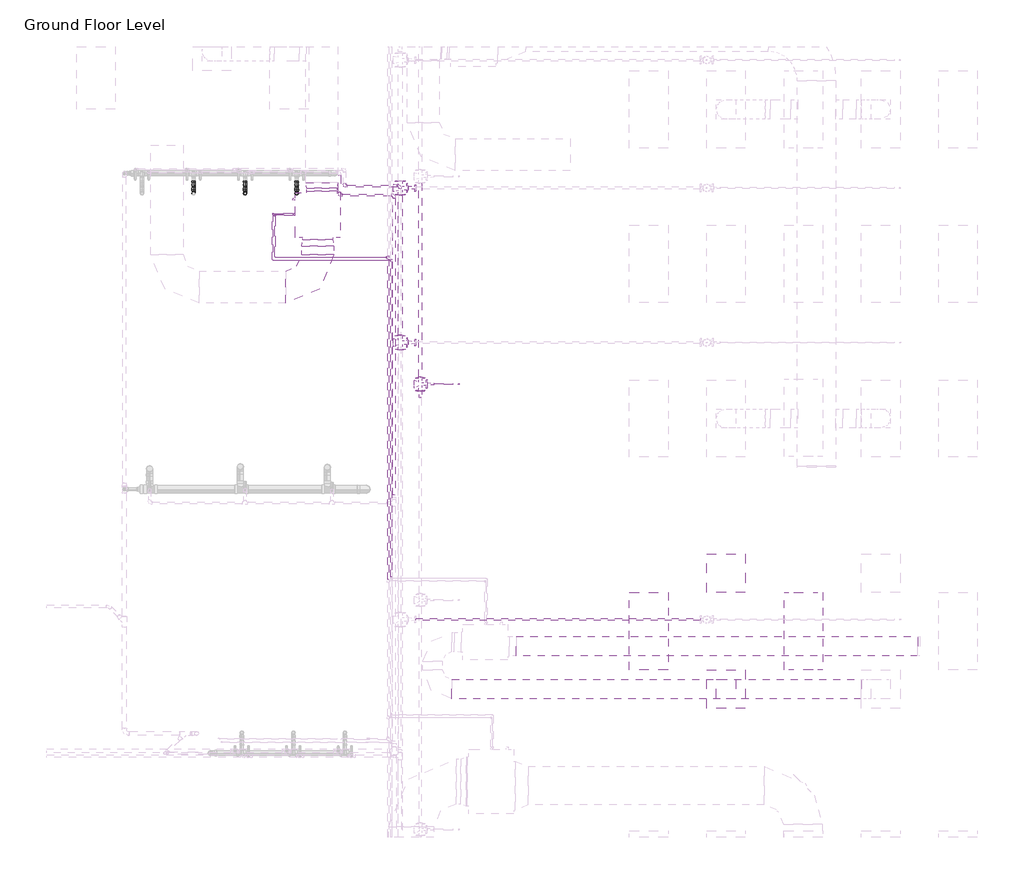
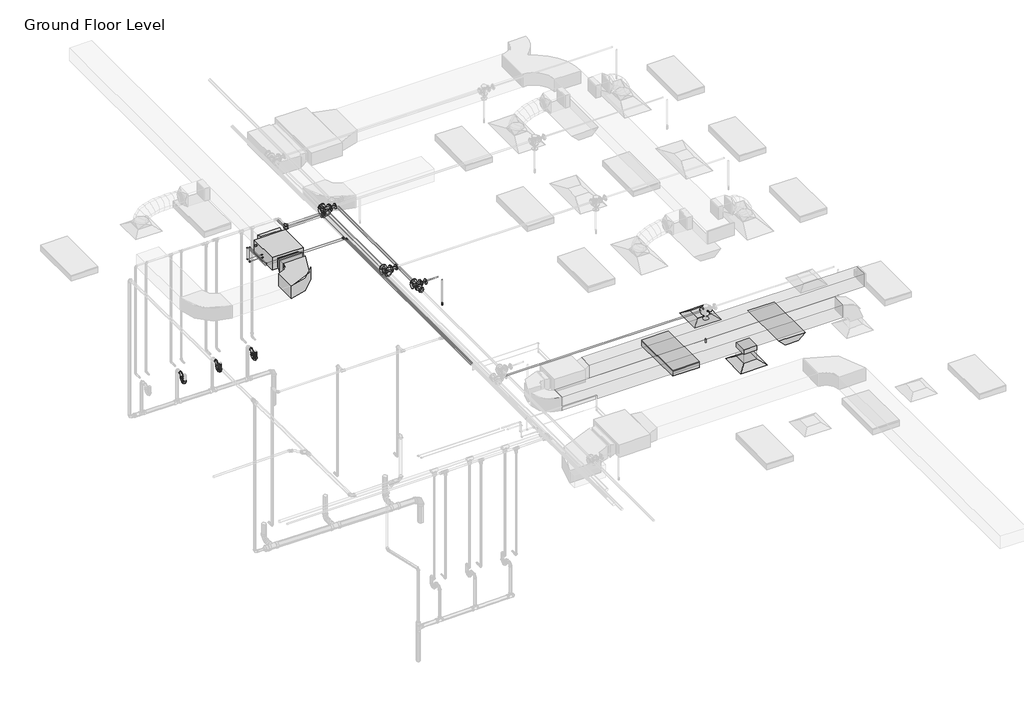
# One storey, part 22 of 75: 28 pipe fittings, 26 pipe segments, 5 duct segments, 4 duct fittings, 2 air terminals, 2 fire suppression terminals, 2 light fixtures, 1 proxy.
"""IFC4 building model written with IfcOpenShell, lengths in millimetres."""

from ifc_helpers import new_model, si_unit, point, frame, frame_2d, origin, place, context, project, spatial, polyline, circle_curve, trimmed, segment, composite_curve, outline, extrude, transform, mapped, element, save
from components import m_return_diffuser_600_x_600_face_300_x_300_connection_ff221211, fcu_daikin_iu_bad131e0, m_rectangular_elbow_radius_1_w_abe20169, m_rectangular_takeoff_standard_2be5eba1, m_rectangular_transition_angle_45_degree_f7c2916c, m_rectangular_transition_angle_45_degree_c3bd3b2c, m_sprinkler_dry_pendent_hosted_15_mm_dry_pendent_9bda8e11, m_sprinkler_pendent_15_mm_pendent_06fcbd8e, m_emergency_recessed_lighting_fixture_600x1200_277_5b10b25d, m_troffer_light_parabolic_rectangular1_0600x1200mm_4_lamp_86473d4a, m_bend_pvc_sch_40_dwv_standard_1e7bdcc1, m_bend_pvc_sch_40_dwv_standard_776e50c4, m_elbow_generic_standard_a088f956, m_elbow_generic_standard_2a704253, m_reducer_flanged_cs_class_150_standard_b6b67c23, m_reducer_flanged_cs_class_150_standard_cc2a7c1d, m_reducer_flanged_cs_class_150_standard_a7631c35, m_tee_generic_standard_5b2ed4d4, m_tee_generic_standard_5078887e, m_tee_round_base_flanged_cs_class_150_standard_dd767e04, m_tee_round_base_flanged_cs_class_150_standard_9c9133d0, m_transition_generic_standard_bdcfe2c1, m_transition_generic_standard_44e35838, standard_517a5a8d

model = new_model("IFC4")

# Units and contexts
model_context = context("Model", 3, world=origin())
ifc_project = project(units=[si_unit("LENGTHUNIT", "METRE", prefix="MILLI")], contexts=[model_context])

# Site, building, storey
site = spatial("IfcSite", under=ifc_project)
building = spatial("IfcBuilding", under=site)
storey = spatial("IfcBuildingStorey", under=building, Name="Ground Floor Level", Elevation=900.0)

# Air terminals
placement = place(None, origin())
m_return_diffuser_600_x_600_face_300_x_300_connection_shape = m_return_diffuser_600_x_600_face_300_x_300_connection_ff221211(model_context)
element("IfcAirTerminal", 1, ObjectType="M_Return Diffuser : 600 x 600 Face 300 x 300 Connection", at=placement, inside=storey, context=model_context, shape_type="MappedRepresentation", body=[
    mapped(m_return_diffuser_600_x_600_face_300_x_300_connection_shape, transform((10743.0482736, -31864.7846466, 3650.0), x_axis=(1.0, 0.0, 0.0), y_axis=(0.0, 1.0, 0.0), z_axis=(0.0, 0.0, 1.0))),
])
element("IfcAirTerminal", 2, ObjectType="M_Supply Diffuser : 600 x 600 Face 300 x 300 Connection", at=placement, inside=storey, context=model_context, shape_type="MappedRepresentation", body=[
    mapped(m_return_diffuser_600_x_600_face_300_x_300_connection_shape, transform((10743.0482736, -30064.7846466, 3650.0), x_axis=(1.0, 0.0, 0.0), y_axis=(0.0, 1.0, 0.0), z_axis=(0.0, 0.0, 1.0))),
])

# Proxy
fcu_daikin_iu_shape = fcu_daikin_iu_bad131e0(model_context)
element("IfcBuildingElementProxy", 3, Name="FCU-DAIKIN IU : 4.5kW, 230V/50Hz/1Ph", ObjectType="FCU-DAIKIN IU : 4.5kW, 230V/50Hz/1Ph", at=placement, inside=storey, context=model_context, shape_type="MappedRepresentation", body=[
    mapped(fcu_daikin_iu_shape, transform((4405.6581832, -24507.2627051, 3934.1054453), x_axis=(-1.0, 0.0, 0.0), y_axis=(0.0, -1.0, 0.0), z_axis=(0.0, 0.0, 1.0))),
])

# Duct fittings
m_rectangular_elbow_radius_1_w_shape = m_rectangular_elbow_radius_1_w_abe20169(model_context)
element("IfcDuctFitting", 4, ObjectType="M_Rectangular Elbow - Radius : 1 W", at=placement, inside=storey, context=model_context, shape_type="MappedRepresentation", body=[
    mapped(m_rectangular_elbow_radius_1_w_shape, transform((4405.6581832, -25622.6440715, 4075.3054453), x_axis=(1.0, 0.0, 0.0), y_axis=(0.0, 1.0, 0.0), z_axis=(0.0, 0.0, 1.0))),
])
m_rectangular_takeoff_standard_shape = m_rectangular_takeoff_standard_2be5eba1(model_context)
element("IfcDuctFitting", 5, ObjectType="M_Rectangular Takeoff : Standard", at=placement, inside=storey, context=model_context, shape_type="MappedRepresentation", body=[
    mapped(m_rectangular_takeoff_standard_shape, transform((10743.0482736, -31864.7846466, 4071.2), x_axis=(0.0, 0.0, -1.0), y_axis=(-1.0, 0.0, 0.0), z_axis=(0.0, 1.0, 0.0))),
])
m_rectangular_transition_angle_45_degree_shape = m_rectangular_transition_angle_45_degree_f7c2916c(model_context)
element("IfcDuctFitting", 6, ObjectType="M_Rectangular Transition - Angle : 45 Degree", at=placement, inside=storey, context=model_context, shape_type="MappedRepresentation", body=[
    mapped(m_rectangular_transition_angle_45_degree_shape, transform((4405.6581832, -24882.6627051, 4075.3054453), x_axis=(0.0, -1.0, 0.0), y_axis=(1.0, 0.0, 0.0), z_axis=(0.0, 0.0, 1.0))),
])
m_rectangular_transition_angle_45_degree_2_shape = m_rectangular_transition_angle_45_degree_c3bd3b2c(model_context)
element("IfcDuctFitting", 7, ObjectType="M_Rectangular Transition - Angle : 45 Degree", at=placement, inside=storey, context=model_context, shape_type="MappedRepresentation", body=[
    mapped(m_rectangular_transition_angle_45_degree_2_shape, transform((4469.1581832, -24003.4668801, 4057.1548873), x_axis=(0.0, -0.9999999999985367, 1.7107374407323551e-06), y_axis=(1.0, 0.0, 0.0), z_axis=(0.0, 1.7107374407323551e-06, 0.9999999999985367))),
])

# Duct segments
element("IfcDuctSegment", 8, ObjectType="Radius Elbows / Taps", at=placement, inside=storey, context=model_context, shape_type="SweptSolid", body=[
    extrude(outline(polyline([(4155.6581832, -24986.1117562), (4655.6581832, -24986.1117562), (4655.6581832, -25122.6440715), (4155.6581832, -25122.6440715), (4155.6581832, -24986.1117562)])), frame((0.0, 0.0, 3925.3054453), z_axis=(0.0, 0.0, 1.0), x_axis=(1.0, 0.0, 0.0)), (0.0, 0.0, 1.0), 300.0),
])
element("IfcDuctSegment", 9, ObjectType="Radius Elbows / Taps", at=placement, inside=storey, context=model_context, shape_type="SweptSolid", body=[
    extrude(outline(polyline([(0.0, -300.0), (0.0, 0.0), (6236.5207712, 0.0), (6236.5207712, -300.0), (0.0, -300.0)])), frame((7482.7433356, -31050.1877703, 4095.9125), z_axis=(2.004322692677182e-06, 0.0, 0.9999999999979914), x_axis=(0.9999999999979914, 0.0, -2.004322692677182e-06)), (0.0, 0.0, 1.0), 300.0),
])
element("IfcDuctSegment", 10, ObjectType="Radius Elbows / Taps", at=placement, inside=storey, context=model_context, shape_type="SweptSolid", body=[
    extrude(outline(polyline([(6488.4644074, -32014.7846466), (6488.4644074, -31714.7846466), (12843.0482736, -31714.7846466), (12843.0482736, -32014.7846466), (6488.4644074, -32014.7846466)])), frame((0.0, 0.0, 4071.2), z_axis=(0.0, 0.0, 1.0), x_axis=(1.0, 0.0, 0.0)), (0.0, 0.0, 1.0), 300.0),
])
element("IfcDuctSegment", 11, ObjectType="Radius Elbows / Taps", at=placement, inside=storey, context=model_context, shape_type="SweptSolid", body=[
    extrude(outline(polyline([(10893.0482736, -32014.7846466), (10593.0482736, -32014.7846466), (10593.0482736, -31714.7846466), (10893.0482736, -31714.7846466), (10893.0482736, -32014.7846466)])), frame((0.0, 0.0, 3751.6), z_axis=(0.0, 0.0, 1.0), x_axis=(1.0, 0.0, 0.0)), (0.0, 0.0, 1.0), 218.0),
])
element("IfcDuctSegment", 12, ObjectType="Radius Elbows / Taps", at=placement, inside=storey, context=model_context, shape_type="SweptSolid", body=[
    extrude(outline(polyline([(4700.0956832, -24131.8627051), (4238.2206832, -24131.8627051), (4238.2206832, -24089.1912487), (4700.0956832, -24089.1912487), (4700.0956832, -24131.8627051)])), frame((0.0, 0.0, 3992.8804453), z_axis=(0.0, 0.0, 1.0), x_axis=(1.0, 0.0, 0.0)), (0.0, 0.0, 1.0), 214.275),
])

# Fire suppression terminals
m_sprinkler_dry_pendent_hosted_15_mm_dry_pendent_shape = m_sprinkler_dry_pendent_hosted_15_mm_dry_pendent_9bda8e11(model_context)
element("IfcFireSuppressionTerminal", 13, ObjectType="M_Sprinkler - Dry - Pendent - Hosted : 15 mm Dry Pendent", at=placement, inside=storey, context=model_context, shape_type="MappedRepresentation", body=[
    mapped(m_sprinkler_dry_pendent_hosted_15_mm_dry_pendent_shape, transform((10443.0482736, -30785.1783804, 3650.0), x_axis=(1.0, 0.0, 0.0), y_axis=(0.0, -1.0, 0.0), z_axis=(0.0, 0.0, -1.0))),
])
m_sprinkler_pendent_15_mm_pendent_shape = m_sprinkler_pendent_15_mm_pendent_06fcbd8e(model_context)
element("IfcFireSuppressionTerminal", 14, ObjectType="M_Sprinkler - Pendent : 15 mm Pendent", at=placement, inside=storey, context=model_context, shape_type="MappedRepresentation", body=[
    mapped(m_sprinkler_pendent_15_mm_pendent_shape, transform((6592.5481019, -27129.3982359, 3650.0), x_axis=(1.0, 0.0, 0.0), y_axis=(0.0, 1.0, 0.0), z_axis=(0.0, 0.0, 1.0))),
])

# Light fixtures
m_emergency_recessed_lighting_fixture_600x1200_277_shape = m_emergency_recessed_lighting_fixture_600x1200_277_5b10b25d(model_context)
element("IfcLightFixture", 15, ObjectType="M_Emergency Recessed Lighting Fixture : 600x1200 - 277", at=placement, inside=storey, context=model_context, shape_type="MappedRepresentation", body=[
    mapped(m_emergency_recessed_lighting_fixture_600x1200_277_shape, transform((11643.0482736, -31564.7846466, 3650.0), x_axis=(0.0, 1.0, 0.0), y_axis=(-1.0, 0.0, 0.0), z_axis=(0.0, 0.0, 1.0))),
])
m_troffer_light_parabolic_rectangular1_0600x1200mm_4_lamp_shape = m_troffer_light_parabolic_rectangular1_0600x1200mm_4_lamp_86473d4a(model_context)
element("IfcLightFixture", 16, ObjectType="M_Troffer Light - Parabolic Rectangular1 : 0600x1200mm(4 Lamp) - 277V 2", at=placement, inside=storey, context=model_context, shape_type="MappedRepresentation", body=[
    mapped(m_troffer_light_parabolic_rectangular1_0600x1200mm_4_lamp_shape, transform((9483.5823415, -30946.081145, 3650.0), x_axis=(0.0, 1.0, 0.0), y_axis=(-1.0, 0.0, 0.0), z_axis=(0.0, 0.0, 1.0))),
])

# Pipe fittings
m_bend_pvc_sch_40_dwv_standard_shape = m_bend_pvc_sch_40_dwv_standard_1e7bdcc1(model_context)
element("IfcPipeFitting", 17, ObjectType="M_Bend - PVC - Sch 40 - DWV : Standard", at=placement, inside=storey, context=model_context, shape_type="MappedRepresentation", body=[
    mapped(m_bend_pvc_sch_40_dwv_standard_shape, transform((2478.7498, -24168.3528578, 1360.00001), x_axis=(0.0, -0.9999500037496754, 0.009999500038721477), y_axis=(0.0, 0.009999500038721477, 0.9999500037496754), z_axis=(-1.0, 0.0, 0.0))),
])
element("IfcPipeFitting", 18, ObjectType="M_Bend - PVC - Sch 40 - DWV : Standard", at=placement, inside=storey, context=model_context, shape_type="MappedRepresentation", body=[
    mapped(m_bend_pvc_sch_40_dwv_standard_shape, transform((3278.7498, -24168.3528578, 1360.0000049), x_axis=(0.0, -0.9999500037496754, 0.009999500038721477), y_axis=(0.0, 0.009999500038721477, 0.9999500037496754), z_axis=(-1.0, 0.0, 0.0))),
])
element("IfcPipeFitting", 19, ObjectType="M_Bend - PVC - Sch 40 - DWV : Standard", at=placement, inside=storey, context=model_context, shape_type="MappedRepresentation", body=[
    mapped(m_bend_pvc_sch_40_dwv_standard_shape, transform((4078.7498, -24168.3528578, 1360.00001), x_axis=(0.0, -0.9999500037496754, 0.009999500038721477), y_axis=(0.0, 0.009999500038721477, 0.9999500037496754), z_axis=(-1.0, 0.0, 0.0))),
])
m_bend_pvc_sch_40_dwv_standard_2_shape = m_bend_pvc_sch_40_dwv_standard_776e50c4(model_context)
element("IfcPipeFitting", 20, ObjectType="M_Bend - PVC - Sch 40 - DWV : Standard", at=placement, inside=storey, context=model_context, shape_type="MappedRepresentation", body=[
    mapped(m_bend_pvc_sch_40_dwv_standard_2_shape, transform((2478.7498, -24038.3518579, 1358.7), x_axis=(0.0, 0.9999500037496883, -0.009999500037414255), y_axis=(0.0, 0.009999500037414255, 0.9999500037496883), z_axis=(1.0, 0.0, 0.0))),
])
element("IfcPipeFitting", 21, ObjectType="M_Bend - PVC - Sch 40 - DWV : Standard", at=placement, inside=storey, context=model_context, shape_type="MappedRepresentation", body=[
    mapped(m_bend_pvc_sch_40_dwv_standard_2_shape, transform((2478.7498, -24038.3518579, 1510.09999), x_axis=(0.0, 0.0, 1.0), y_axis=(0.0, 1.0, 0.0), z_axis=(-1.0, 0.0, 0.0))),
])
element("IfcPipeFitting", 22, ObjectType="M_Bend - PVC - Sch 40 - DWV : Standard", at=placement, inside=storey, context=model_context, shape_type="MappedRepresentation", body=[
    mapped(m_bend_pvc_sch_40_dwv_standard_2_shape, transform((3278.7498, -24038.3523645, 1358.7), x_axis=(0.0, 0.9999500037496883, -0.009999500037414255), y_axis=(0.0, 0.009999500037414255, 0.9999500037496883), z_axis=(1.0, 0.0, 0.0))),
])
element("IfcPipeFitting", 23, ObjectType="M_Bend - PVC - Sch 40 - DWV : Standard", at=placement, inside=storey, context=model_context, shape_type="MappedRepresentation", body=[
    mapped(m_bend_pvc_sch_40_dwv_standard_2_shape, transform((3278.7498, -24038.3523645, 1510.0493267), x_axis=(0.0, 0.0, 1.0), y_axis=(0.0, 1.0, 0.0), z_axis=(-1.0, 0.0, 0.0))),
])
element("IfcPipeFitting", 24, ObjectType="M_Bend - PVC - Sch 40 - DWV : Standard", at=placement, inside=storey, context=model_context, shape_type="MappedRepresentation", body=[
    mapped(m_bend_pvc_sch_40_dwv_standard_2_shape, transform((4078.7498, -24038.3518579, 1358.7), x_axis=(0.0, 0.9999500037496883, -0.009999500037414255), y_axis=(0.0, 0.009999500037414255, 0.9999500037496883), z_axis=(1.0, 0.0, 0.0))),
])
element("IfcPipeFitting", 25, ObjectType="M_Bend - PVC - Sch 40 - DWV : Standard", at=placement, inside=storey, context=model_context, shape_type="MappedRepresentation", body=[
    mapped(m_bend_pvc_sch_40_dwv_standard_2_shape, transform((4078.7498, -24038.3518579, 1510.09999), x_axis=(0.0, 0.0, 1.0), y_axis=(0.0, 1.0, 0.0), z_axis=(-1.0, 0.0, 0.0))),
])
m_elbow_generic_standard_shape = m_elbow_generic_standard_a088f956(model_context)
element("IfcPipeFitting", 26, ObjectType="M_Elbow - Generic : Standard", at=placement, inside=storey, context=model_context, shape_type="MappedRepresentation", body=[
    mapped(m_elbow_generic_standard_shape, transform((3741.7995393, -24507.2440715, 4034.0875), x_axis=(-1.0, 0.0, 0.0), y_axis=(0.0, 0.0, 1.0), z_axis=(0.0, 1.0, 0.0))),
])
element("IfcPipeFitting", 27, ObjectType="M_Elbow - Generic : Standard", at=placement, inside=storey, context=model_context, shape_type="MappedRepresentation", body=[
    mapped(m_elbow_generic_standard_shape, transform((3741.7995393, -24507.2440715, 4390.0), x_axis=(0.0, 0.0, 1.0), y_axis=(0.0, -1.0, 0.0), z_axis=(1.0, 0.0, 0.0))),
])
m_elbow_generic_standard_2_shape = m_elbow_generic_standard_2a704253(model_context)
element("IfcPipeFitting", 28, ObjectType="M_Elbow - Generic : Standard", at=placement, inside=storey, context=model_context, shape_type="MappedRepresentation", body=[
    mapped(m_elbow_generic_standard_2_shape, transform((3705.4496688, -24482.2440715, 4084.8875), x_axis=(-1.0, 0.0, 0.0), y_axis=(0.0, 0.0, 1.0), z_axis=(0.0, 1.0, 0.0))),
])
element("IfcPipeFitting", 29, ObjectType="M_Elbow - Generic : Standard", at=placement, inside=storey, context=model_context, shape_type="MappedRepresentation", body=[
    mapped(m_elbow_generic_standard_2_shape, transform((3705.4496688, -24482.2440715, 4377.5), x_axis=(0.0, 0.0, 1.0), y_axis=(0.0, -1.0, 0.0), z_axis=(1.0, 0.0, 0.0))),
])
m_reducer_flanged_cs_class_150_standard_shape = m_reducer_flanged_cs_class_150_standard_b6b67c23(model_context)
element("IfcPipeFitting", 30, ObjectType="M_Reducer - Flanged - CS - Class 150 : Standard", at=placement, inside=storey, context=model_context, shape_type="MappedRepresentation", body=[
    mapped(m_reducer_flanged_cs_class_150_standard_shape, transform((5997.057812, -27235.4968297, 4291.0943441), x_axis=(0.0, -1.0, 0.0), y_axis=(1.0, 0.0, 0.0), z_axis=(0.0, 0.0, 1.0))),
])
m_reducer_flanged_cs_class_150_standard_2_shape = m_reducer_flanged_cs_class_150_standard_cc2a7c1d(model_context)
element("IfcPipeFitting", 31, ObjectType="M_Reducer - Flanged - CS - Class 150 : Standard", at=placement, inside=storey, context=model_context, shape_type="MappedRepresentation", body=[
    mapped(m_reducer_flanged_cs_class_150_standard_2_shape, transform((6103.1564057, -27129.3982359, 4291.2754753), x_axis=(1.0, 0.0, 0.0), y_axis=(0.0, 0.0, -1.0), z_axis=(0.0, 1.0, 0.0))),
])
m_reducer_flanged_cs_class_150_standard_3_shape = m_reducer_flanged_cs_class_150_standard_a7631c35(model_context)
element("IfcPipeFitting", 32, ObjectType="M_Reducer - Flanged - CS - Class 150 : Standard", at=placement, inside=storey, context=model_context, shape_type="MappedRepresentation", body=[
    mapped(m_reducer_flanged_cs_class_150_standard_3_shape, transform((5798.6174894, -26484.6295433, 4347.5), x_axis=(1.0, 0.0, 0.0), y_axis=(0.0, 0.0, 1.0), z_axis=(0.0, -1.0, 0.0))),
])
element("IfcPipeFitting", 33, ObjectType="M_Reducer - Flanged - CS - Class 150 : Standard", at=placement, inside=storey, context=model_context, shape_type="MappedRepresentation", body=[
    mapped(m_reducer_flanged_cs_class_150_standard_3_shape, transform((5798.6174894, -24083.6779349, 4347.5), x_axis=(1.0, 0.0, 0.0), y_axis=(0.0, 0.0, 1.0), z_axis=(0.0, -1.0, 0.0))),
])
m_tee_generic_standard_shape = m_tee_generic_standard_5b2ed4d4(model_context)
element("IfcPipeFitting", 34, ObjectType="M_Tee - Generic : Standard", at=placement, inside=storey, context=model_context, shape_type="MappedRepresentation", body=[
    mapped(m_tee_generic_standard_shape, transform((5543.9904113, -25206.4899508, 4377.5), x_axis=(0.0, -1.0, 0.0), y_axis=(1.0, 0.0, 0.0), z_axis=(0.0, 0.0, 1.0))),
])
m_tee_generic_standard_2_shape = m_tee_generic_standard_5078887e(model_context)
element("IfcPipeFitting", 35, ObjectType="M_Tee - Generic : Standard", at=placement, inside=storey, context=model_context, shape_type="MappedRepresentation", body=[
    mapped(m_tee_generic_standard_2_shape, transform((5497.8951827, -25162.0896488, 4390.0), x_axis=(0.0, -1.0, 0.0), y_axis=(1.0, 0.0, 0.0), z_axis=(0.0, 0.0, 1.0))),
])
m_tee_round_base_flanged_cs_class_150_standard_shape = m_tee_round_base_flanged_cs_class_150_standard_dd767e04(model_context)
element("IfcPipeFitting", 36, ObjectType="M_Tee Round Base - Flanged - CS - Class 150 : Standard", at=placement, inside=storey, context=model_context, shape_type="MappedRepresentation", body=[
    mapped(m_tee_round_base_flanged_cs_class_150_standard_shape, transform((5684.6174894, -26484.6295433, 4347.5), x_axis=(0.0, -1.0, 0.0), y_axis=(-1.0, 0.0, 0.0), z_axis=(0.0, 0.0, -1.0))),
])
element("IfcPipeFitting", 37, ObjectType="M_Tee Round Base - Flanged - CS - Class 150 : Standard", at=placement, inside=storey, context=model_context, shape_type="MappedRepresentation", body=[
    mapped(m_tee_round_base_flanged_cs_class_150_standard_shape, transform((5684.6174894, -24083.6779349, 4347.5), x_axis=(0.0, -1.0, 0.0), y_axis=(-1.0, 0.0, 0.0), z_axis=(0.0, 0.0, -1.0))),
])
m_tee_round_base_flanged_cs_class_150_standard_2_shape = m_tee_round_base_flanged_cs_class_150_standard_9c9133d0(model_context)
element("IfcPipeFitting", 38, ObjectType="M_Tee Round Base - Flanged - CS - Class 150 : Standard", at=placement, inside=storey, context=model_context, shape_type="MappedRepresentation", body=[
    mapped(m_tee_round_base_flanged_cs_class_150_standard_2_shape, transform((5997.057812, -27129.3982359, 4291.0943441), x_axis=(0.0, 1.0, 0.0), y_axis=(-1.0, 0.0, 0.0), z_axis=(0.0, 0.0, 1.0))),
])
m_transition_generic_standard_shape = m_transition_generic_standard_bdcfe2c1(model_context)
element("IfcPipeFitting", 39, ObjectType="M_Transition - Generic : Standard", at=placement, inside=storey, context=model_context, shape_type="MappedRepresentation", body=[
    mapped(m_transition_generic_standard_shape, transform((5523.3529113, -25206.4899508, 4377.5), x_axis=(-1.0, 0.0, 0.0), y_axis=(0.0, -1.0, 0.0), z_axis=(0.0, 0.0, 1.0))),
])
m_transition_generic_standard_2_shape = m_transition_generic_standard_44e35838(model_context)
element("IfcPipeFitting", 40, ObjectType="M_Transition - Generic : Standard", at=placement, inside=storey, context=model_context, shape_type="MappedRepresentation", body=[
    mapped(m_transition_generic_standard_2_shape, transform((5474.0826827, -25162.0896488, 4390.0), x_axis=(-1.0, 0.0, 0.0), y_axis=(0.0, -1.0, 0.0), z_axis=(0.0, 0.0, 1.0))),
])
standard_shape = standard_517a5a8d(model_context)
element("IfcPipeFitting", 41, ObjectType="M_Elbow - CPVC - Sch 40 : Standard", at=placement, inside=storey, context=model_context, shape_type="MappedRepresentation", body=[
    mapped(standard_shape, transform((4743.0647206, -24195.7825432, 4300.0), x_axis=(0.0, -1.0, 0.0), y_axis=(1.0, 0.0, 0.0), z_axis=(0.0, 0.0, 1.0))),
])
element("IfcPipeFitting", 42, ObjectType="M_Elbow - CPVC - Sch 40 : Standard", at=placement, inside=storey, context=model_context, shape_type="MappedRepresentation", body=[
    mapped(standard_shape, transform((5589.646628, -24195.7825432, 4300.0), x_axis=(0.0, 1.0, 0.0), y_axis=(-1.0, 0.0, 0.0), z_axis=(0.0, 0.0, 1.0))),
])
element("IfcPipeFitting", 43, ObjectType="M_Elbow - CPVC - Sch 40 : Standard", at=placement, inside=storey, context=model_context, shape_type="MappedRepresentation", body=[
    mapped(standard_shape, transform((5680.5575802, -24054.921633, 4250.0), x_axis=(0.0, 1.0, 0.0), y_axis=(-1.0, 0.0, 0.0), z_axis=(0.0, 0.0, 1.0))),
])
element("IfcPipeFitting", 44, ObjectType="M_Elbow - CPVC - Sch 40 : Standard", at=placement, inside=storey, context=model_context, shape_type="MappedRepresentation", body=[
    mapped(standard_shape, transform((4820.5575802, -24054.921633, 4250.0), x_axis=(0.0, -1.0, 0.0), y_axis=(1.0, 0.0, 0.0), z_axis=(0.0, 0.0, 1.0))),
])

# Pipe segments
element("IfcPipeSegment", 45, ObjectType="CPVC", at=placement, inside=storey, context=model_context, shape_type="SweptSolid", body=[
    extrude(outline(composite_curve([segment(trimmed(circle_curve(frame_2d((4300.0, 4743.0647206)), 16.7005), [point((4300.0, 4726.3642206))], [point((4283.2995, 4743.0647206))], False, "CARTESIAN"), True, "CONTINUOUS"), segment(trimmed(circle_curve(frame_2d((4300.0, 4743.0647206)), 16.7005), [point((4283.2995, 4743.0647206))], [point((4300.0, 4759.7652206))], False, "CARTESIAN"), True, "CONTINUOUS"), segment(trimmed(circle_curve(frame_2d((4300.0, 4743.0647206)), 16.7005), [point((4300.0, 4759.7652206))], [point((4316.7005, 4743.0647206))], False, "CARTESIAN"), True, "CONTINUOUS"), segment(trimmed(circle_curve(frame_2d((4300.0, 4743.0647206)), 16.7005), [point((4316.7005, 4743.0647206))], [point((4300.0, 4726.3642206))], False, "CARTESIAN"), True, "CONTINUOUS")], self_intersect=False)), frame((0.0, -24152.5199932, 0.0), z_axis=(0.0, 1.0, 0.0), x_axis=(0.0, 0.0, 1.0)), (0.0, 0.0, 1.0), 264.4727966),
])
element("IfcPipeSegment", 46, ObjectType="CPVC", at=placement, inside=storey, context=model_context, shape_type="SweptSolid", body=[
    extrude(outline(composite_curve([segment(trimmed(circle_curve(frame_2d((-24195.7825432, 4300.0)), 16.7005), [point((-24212.4830432, 4300.0))], [point((-24195.7825432, 4316.7005))], False, "CARTESIAN"), True, "CONTINUOUS"), segment(trimmed(circle_curve(frame_2d((-24195.7825432, 4300.0)), 16.7005), [point((-24195.7825432, 4316.7005))], [point((-24179.0820432, 4300.0))], False, "CARTESIAN"), True, "CONTINUOUS"), segment(trimmed(circle_curve(frame_2d((-24195.7825432, 4300.0)), 16.7005), [point((-24179.0820432, 4300.0))], [point((-24195.7825432, 4283.2995))], False, "CARTESIAN"), True, "CONTINUOUS"), segment(trimmed(circle_curve(frame_2d((-24195.7825432, 4300.0)), 16.7005), [point((-24195.7825432, 4283.2995))], [point((-24212.4830432, 4300.0))], False, "CARTESIAN"), True, "CONTINUOUS")], self_intersect=False)), frame((4786.3272706, 0.0, 0.0), z_axis=(1.0, 0.0, 0.0), x_axis=(0.0, 1.0, 0.0)), (0.0, 0.0, 1.0), 760.0568074),
])
element("IfcPipeSegment", 47, ObjectType="CPVC", at=placement, inside=storey, context=model_context, shape_type="SweptSolid", body=[
    extrude(outline(composite_curve([segment(trimmed(circle_curve(frame_2d((4300.0, 5589.646628)), 16.7005), [point((4300.0, 5572.946128))], [point((4283.2995, 5589.646628))], False, "CARTESIAN"), True, "CONTINUOUS"), segment(trimmed(circle_curve(frame_2d((4300.0, 5589.646628)), 16.7005), [point((4283.2995, 5589.646628))], [point((4300.0, 5606.347128))], False, "CARTESIAN"), True, "CONTINUOUS"), segment(trimmed(circle_curve(frame_2d((4300.0, 5589.646628)), 16.7005), [point((4300.0, 5606.347128))], [point((4316.7005, 5589.646628))], False, "CARTESIAN"), True, "CONTINUOUS"), segment(trimmed(circle_curve(frame_2d((4300.0, 5589.646628)), 16.7005), [point((4316.7005, 5589.646628))], [point((4300.0, 5572.946128))], False, "CARTESIAN"), True, "CONTINUOUS")], self_intersect=False)), frame((0.0, -28854.6907716, 0.0), z_axis=(0.0, 1.0, 0.0), x_axis=(0.0, 0.0, 1.0)), (0.0, 0.0, 1.0), 4615.6456784),
])
element("IfcPipeSegment", 48, ObjectType="CPVC", at=placement, inside=storey, context=model_context, shape_type="SweptSolid", body=[
    extrude(outline(composite_curve([segment(trimmed(circle_curve(frame_2d((-24054.921633, 4250.0)), 16.7005), [point((-24038.221133, 4250.0))], [point((-24054.921633, 4233.2995))], False, "CARTESIAN"), True, "CONTINUOUS"), segment(trimmed(circle_curve(frame_2d((-24054.921633, 4250.0)), 16.7005), [point((-24054.921633, 4233.2995))], [point((-24071.622133, 4250.0))], False, "CARTESIAN"), True, "CONTINUOUS"), segment(trimmed(circle_curve(frame_2d((-24054.921633, 4250.0)), 16.7005), [point((-24071.622133, 4250.0))], [point((-24054.921633, 4266.7005))], False, "CARTESIAN"), True, "CONTINUOUS"), segment(trimmed(circle_curve(frame_2d((-24054.921633, 4250.0)), 16.7005), [point((-24054.921633, 4266.7005))], [point((-24038.221133, 4250.0))], False, "CARTESIAN"), True, "CONTINUOUS")], self_intersect=False)), frame((4863.8201302, 0.0, 0.0), z_axis=(1.0, 0.0, 0.0), x_axis=(0.0, 1.0, 0.0)), (0.0, 0.0, 1.0), 773.4749),
])
element("IfcPipeSegment", 49, ObjectType="Copper", at=placement, inside=storey, context=model_context, shape_type="SweptSolid", body=[
    extrude(outline(composite_curve([segment(trimmed(circle_curve(frame_2d((-25206.4899508, 4377.5)), 3.35), [point((-25209.8399508, 4377.5))], [point((-25206.4899508, 4380.85))], False, "CARTESIAN"), True, "CONTINUOUS"), segment(trimmed(circle_curve(frame_2d((-25206.4899508, 4377.5)), 3.35), [point((-25206.4899508, 4380.85))], [point((-25203.1399508, 4377.5))], False, "CARTESIAN"), True, "CONTINUOUS"), segment(trimmed(circle_curve(frame_2d((-25206.4899508, 4377.5)), 3.35), [point((-25203.1399508, 4377.5))], [point((-25206.4899508, 4374.15))], False, "CARTESIAN"), True, "CONTINUOUS"), segment(trimmed(circle_curve(frame_2d((-25206.4899508, 4377.5)), 3.35), [point((-25206.4899508, 4374.15))], [point((-25209.8399508, 4377.5))], False, "CARTESIAN"), True, "CONTINUOUS")], self_intersect=False)), frame((3716.5871688, 0.0, 0.0), z_axis=(1.0, 0.0, 0.0), x_axis=(0.0, 1.0, 0.0)), (0.0, 0.0, 1.0), 1802.7969926),
])
element("IfcPipeSegment", 50, ObjectType="Copper", at=placement, inside=storey, context=model_context, shape_type="SweptSolid", body=[
    extrude(outline(composite_curve([segment(trimmed(circle_curve(frame_2d((-25162.0896488, 4390.0)), 6.5), [point((-25168.5896488, 4390.0))], [point((-25162.0896488, 4396.5))], False, "CARTESIAN"), True, "CONTINUOUS"), segment(trimmed(circle_curve(frame_2d((-25162.0896488, 4390.0)), 6.5), [point((-25162.0896488, 4396.5))], [point((-25155.5896488, 4390.0))], False, "CARTESIAN"), True, "CONTINUOUS"), segment(trimmed(circle_curve(frame_2d((-25162.0896488, 4390.0)), 6.5), [point((-25155.5896488, 4390.0))], [point((-25162.0896488, 4383.5))], False, "CARTESIAN"), True, "CONTINUOUS"), segment(trimmed(circle_curve(frame_2d((-25162.0896488, 4390.0)), 6.5), [point((-25162.0896488, 4383.5))], [point((-25168.5896488, 4390.0))], False, "CARTESIAN"), True, "CONTINUOUS")], self_intersect=False)), frame((3756.0870393, 0.0, 0.0), z_axis=(1.0, 0.0, 0.0), x_axis=(0.0, 1.0, 0.0)), (0.0, 0.0, 1.0), 1712.4393933),
])
element("IfcPipeSegment", 51, ObjectType="Copper", at=placement, inside=storey, context=model_context, shape_type="SweptSolid", body=[
    extrude(outline(composite_curve([segment(trimmed(circle_curve(frame_2d((4377.5, 3705.4496688)), 3.35), [point((4377.5, 3702.0996688))], [point((4374.15, 3705.4496688))], False, "CARTESIAN"), True, "CONTINUOUS"), segment(trimmed(circle_curve(frame_2d((4377.5, 3705.4496688)), 3.35), [point((4374.15, 3705.4496688))], [point((4377.5, 3708.7996688))], False, "CARTESIAN"), True, "CONTINUOUS"), segment(trimmed(circle_curve(frame_2d((4377.5, 3705.4496688)), 3.35), [point((4377.5, 3708.7996688))], [point((4380.85, 3705.4496688))], False, "CARTESIAN"), True, "CONTINUOUS"), segment(trimmed(circle_curve(frame_2d((4377.5, 3705.4496688)), 3.35), [point((4380.85, 3705.4496688))], [point((4377.5, 3702.0996688))], False, "CARTESIAN"), True, "CONTINUOUS")], self_intersect=False)), frame((0.0, -25195.3524508, 0.0), z_axis=(0.0, 1.0, 0.0), x_axis=(0.0, 0.0, 1.0)), (0.0, 0.0, 1.0), 701.9708793),
])
element("IfcPipeSegment", 52, ObjectType="Copper", at=placement, inside=storey, context=model_context, shape_type="SweptSolid", body=[
    extrude(outline(composite_curve([segment(trimmed(circle_curve(frame_2d((4390.0, 3741.7995393)), 6.5), [point((4390.0, 3735.2995393))], [point((4383.5, 3741.7995393))], False, "CARTESIAN"), True, "CONTINUOUS"), segment(trimmed(circle_curve(frame_2d((4390.0, 3741.7995393)), 6.5), [point((4383.5, 3741.7995393))], [point((4390.0, 3748.2995393))], False, "CARTESIAN"), True, "CONTINUOUS"), segment(trimmed(circle_curve(frame_2d((4390.0, 3741.7995393)), 6.5), [point((4390.0, 3748.2995393))], [point((4396.5, 3741.7995393))], False, "CARTESIAN"), True, "CONTINUOUS"), segment(trimmed(circle_curve(frame_2d((4390.0, 3741.7995393)), 6.5), [point((4396.5, 3741.7995393))], [point((4390.0, 3735.2995393))], False, "CARTESIAN"), True, "CONTINUOUS")], self_intersect=False)), frame((0.0, -25147.8021488, 0.0), z_axis=(0.0, 1.0, 0.0), x_axis=(0.0, 0.0, 1.0)), (0.0, 0.0, 1.0), 626.2705772),
])
element("IfcPipeSegment", 53, ObjectType="Copper", at=placement, inside=storey, context=model_context, shape_type="SweptSolid", body=[
    extrude(outline(composite_curve([segment(trimmed(circle_curve(frame_2d((0.0, -6.5)), 6.5), [point((-6.5, -6.5))], [point((1e-07, 0.0))], False, "CARTESIAN"), True, "CONTINUOUS"), segment(trimmed(circle_curve(frame_2d((0.0, -6.5)), 6.5), [point((1e-07, 0.0))], [point((6.5, -6.5))], False, "CARTESIAN"), True, "CONTINUOUS"), segment(trimmed(circle_curve(frame_2d((0.0, -6.5)), 6.5), [point((6.5, -6.5))], [point((0.0, -13.0))], False, "CARTESIAN"), True, "CONTINUOUS"), segment(trimmed(circle_curve(frame_2d((0.0, -6.5)), 6.5), [point((0.0, -13.0))], [point((-6.5, -6.5))], False, "CARTESIAN"), True, "CONTINUOUS")], self_intersect=False)), frame((3756.0874855, -24507.2440715, 4027.5875), z_axis=(0.9999999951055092, -7.12643563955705e-05, 6.86321587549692e-05), x_axis=(-7.126435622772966e-05, -0.9999999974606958, -4.891026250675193e-09)), (0.0, 0.0, 1.0), 261.4711452),
])
element("IfcPipeSegment", 54, ObjectType="Copper", at=placement, inside=storey, context=model_context, shape_type="SweptSolid", body=[
    extrude(outline(composite_curve([segment(trimmed(circle_curve(frame_2d((0.0, -3.35)), 3.35), [point((-3.35, -3.35))], [point((0.0, 0.0))], False, "CARTESIAN"), True, "CONTINUOUS"), segment(trimmed(circle_curve(frame_2d((0.0, -3.35)), 3.35), [point((0.0, 0.0))], [point((3.35, -3.35))], False, "CARTESIAN"), True, "CONTINUOUS"), segment(trimmed(circle_curve(frame_2d((0.0, -3.35)), 3.35), [point((3.35, -3.35))], [point((0.0, -6.7))], False, "CARTESIAN"), True, "CONTINUOUS"), segment(trimmed(circle_curve(frame_2d((0.0, -3.35)), 3.35), [point((0.0, -6.7))], [point((-3.35, -3.35))], False, "CARTESIAN"), True, "CONTINUOUS")], self_intersect=False)), frame((3716.5873685, -24482.2440715, 4081.5375), z_axis=(0.9999999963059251, -6.191151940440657e-05, 5.962477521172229e-05), x_axis=(-6.191151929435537e-05, -0.999999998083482, -3.691459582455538e-09)), (0.0, 0.0, 1.0), 300.9710156),
])
element("IfcPipeSegment", 55, ObjectType="Copper", at=placement, inside=storey, context=model_context, shape_type="SweptSolid", body=[
    extrude(outline(composite_curve([segment(trimmed(circle_curve(frame_2d((3705.4496688, -24482.2440715)), 3.35), [point((3702.0996688, -24482.2440715))], [point((3705.4496688, -24478.8940715))], False, "CARTESIAN"), True, "CONTINUOUS"), segment(trimmed(circle_curve(frame_2d((3705.4496688, -24482.2440715)), 3.35), [point((3705.4496688, -24478.8940715))], [point((3708.7996688, -24482.2440715))], False, "CARTESIAN"), True, "CONTINUOUS"), segment(trimmed(circle_curve(frame_2d((3705.4496688, -24482.2440715)), 3.35), [point((3708.7996688, -24482.2440715))], [point((3705.4496688, -24485.5940715))], False, "CARTESIAN"), True, "CONTINUOUS"), segment(trimmed(circle_curve(frame_2d((3705.4496688, -24482.2440715)), 3.35), [point((3705.4496688, -24485.5940715))], [point((3702.0996688, -24482.2440715))], False, "CARTESIAN"), True, "CONTINUOUS")], self_intersect=False)), frame((0.0, 0.0, 4096.025), z_axis=(0.0, 0.0, 1.0), x_axis=(1.0, 0.0, 0.0)), (0.0, 0.0, 1.0), 270.3375),
])
element("IfcPipeSegment", 56, ObjectType="Copper", at=placement, inside=storey, context=model_context, shape_type="SweptSolid", body=[
    extrude(outline(composite_curve([segment(trimmed(circle_curve(frame_2d((3741.7995393, -24507.2440715)), 6.5), [point((3735.2995393, -24507.2440715))], [point((3741.7995393, -24500.7440715))], False, "CARTESIAN"), True, "CONTINUOUS"), segment(trimmed(circle_curve(frame_2d((3741.7995393, -24507.2440715)), 6.5), [point((3741.7995393, -24500.7440715))], [point((3748.2995393, -24507.2440715))], False, "CARTESIAN"), True, "CONTINUOUS"), segment(trimmed(circle_curve(frame_2d((3741.7995393, -24507.2440715)), 6.5), [point((3748.2995393, -24507.2440715))], [point((3741.7995393, -24513.7440715))], False, "CARTESIAN"), True, "CONTINUOUS"), segment(trimmed(circle_curve(frame_2d((3741.7995393, -24507.2440715)), 6.5), [point((3741.7995393, -24513.7440715))], [point((3735.2995393, -24507.2440715))], False, "CARTESIAN"), True, "CONTINUOUS")], self_intersect=False)), frame((0.0, 0.0, 4048.375), z_axis=(0.0, 0.0, 1.0), x_axis=(1.0, 0.0, 0.0)), (0.0, 0.0, 1.0), 327.3375),
])
element("IfcPipeSegment", 57, ObjectType="Copper", at=placement, inside=storey, context=model_context, shape_type="SweptSolid", body=[
    extrude(outline(composite_curve([segment(trimmed(circle_curve(frame_2d((4377.5, 5543.9904113)), 6.5), [point((4377.5, 5550.4904113))], [point((4384.0, 5543.9904113))], False, "CARTESIAN"), True, "CONTINUOUS"), segment(trimmed(circle_curve(frame_2d((4377.5, 5543.9904113)), 6.5), [point((4384.0, 5543.9904113))], [point((4377.5, 5537.4904113))], False, "CARTESIAN"), True, "CONTINUOUS"), segment(trimmed(circle_curve(frame_2d((4377.5, 5543.9904113)), 6.5), [point((4377.5, 5537.4904113))], [point((4371.0, 5543.9904113))], False, "CARTESIAN"), True, "CONTINUOUS"), segment(trimmed(circle_curve(frame_2d((4377.5, 5543.9904113)), 6.5), [point((4371.0, 5543.9904113))], [point((4377.5, 5550.4904113))], False, "CARTESIAN"), True, "CONTINUOUS")], self_intersect=False)), frame((0.0, -30124.2941538, 0.0), z_axis=(0.0, 1.0, 0.0), x_axis=(0.0, 0.0, 1.0)), (0.0, 0.0, 1.0), 4897.166703),
])
element("IfcPipeSegment", 58, ObjectType="Copper", at=placement, inside=storey, context=model_context, shape_type="SweptSolid", body=[
    extrude(outline(composite_curve([segment(trimmed(circle_curve(frame_2d((4390.0, 5497.8951827)), 9.75), [point((4390.0, 5507.6451827))], [point((4399.75, 5497.8951827))], False, "CARTESIAN"), True, "CONTINUOUS"), segment(trimmed(circle_curve(frame_2d((4390.0, 5497.8951827)), 9.75), [point((4399.75, 5497.8951827))], [point((4390.0, 5488.1451827))], False, "CARTESIAN"), True, "CONTINUOUS"), segment(trimmed(circle_curve(frame_2d((4390.0, 5497.8951827)), 9.75), [point((4390.0, 5488.1451827))], [point((4380.25, 5497.8951827))], False, "CARTESIAN"), True, "CONTINUOUS"), segment(trimmed(circle_curve(frame_2d((4390.0, 5497.8951827)), 9.75), [point((4380.25, 5497.8951827))], [point((4390.0, 5507.6451827))], False, "CARTESIAN"), True, "CONTINUOUS")], self_intersect=False)), frame((0.0, -30163.6388653, 0.0), z_axis=(0.0, 1.0, 0.0), x_axis=(0.0, 0.0, 1.0)), (0.0, 0.0, 1.0), 4977.7367166),
])
element("IfcPipeSegment", 59, ObjectType="PVC - DWV", at=placement, inside=storey, context=model_context, shape_type="SweptSolid", body=[
    extrude(outline(composite_curve([segment(trimmed(circle_curve(frame_2d((2478.7498, -24038.3518579)), 24.13), [point((2454.6198, -24038.3518579))], [point((2478.7498, -24014.2218579))], False, "CARTESIAN"), True, "CONTINUOUS"), segment(trimmed(circle_curve(frame_2d((2478.7498, -24038.3518579)), 24.13), [point((2478.7498, -24014.2218579))], [point((2502.8798, -24038.3518579))], False, "CARTESIAN"), True, "CONTINUOUS"), segment(trimmed(circle_curve(frame_2d((2478.7498, -24038.3518579)), 24.13), [point((2502.8798, -24038.3518579))], [point((2478.7498, -24062.4818579))], False, "CARTESIAN"), True, "CONTINUOUS"), segment(trimmed(circle_curve(frame_2d((2478.7498, -24038.3518579)), 24.13), [point((2478.7498, -24062.4818579))], [point((2454.6198, -24038.3518579))], False, "CARTESIAN"), True, "CONTINUOUS")], self_intersect=False)), frame((0.0, 0.0, 1420.5998), z_axis=(0.0, 0.0, 1.0), x_axis=(1.0, 0.0, 0.0)), (0.0, 0.0, 1.0), 27.60039),
])
element("IfcPipeSegment", 60, ObjectType="PVC - DWV", at=placement, inside=storey, context=model_context, shape_type="SweptSolid", body=[
    extrude(outline(composite_curve([segment(trimmed(circle_curve(frame_2d((3278.7498, -24168.3528578)), 24.13), [point((3254.6198, -24168.3528578))], [point((3278.7498, -24144.2228578))], False, "CARTESIAN"), True, "CONTINUOUS"), segment(trimmed(circle_curve(frame_2d((3278.7498, -24168.3528578)), 24.13), [point((3278.7498, -24144.2228578))], [point((3302.8798, -24168.3528578))], False, "CARTESIAN"), True, "CONTINUOUS"), segment(trimmed(circle_curve(frame_2d((3278.7498, -24168.3528578)), 24.13), [point((3302.8798, -24168.3528578))], [point((3278.7498, -24192.4828578))], False, "CARTESIAN"), True, "CONTINUOUS"), segment(trimmed(circle_curve(frame_2d((3278.7498, -24168.3528578)), 24.13), [point((3278.7498, -24192.4828578))], [point((3254.6198, -24168.3528578))], False, "CARTESIAN"), True, "CONTINUOUS")], self_intersect=False)), frame((0.0, 0.0, 1421.8998049), z_axis=(0.0, 0.0, 1.0), x_axis=(1.0, 0.0, 0.0)), (0.0, 0.0, 1.0), 128.1001951),
])
element("IfcPipeSegment", 61, ObjectType="PVC - DWV", at=placement, inside=storey, context=model_context, shape_type="SweptSolid", body=[
    extrude(outline(composite_curve([segment(trimmed(circle_curve(frame_2d((0.0, -24.1299999)), 24.13), [point((24.13, -24.1299999))], [point((0.0, -48.2599999))], False, "CARTESIAN"), True, "CONTINUOUS"), segment(trimmed(circle_curve(frame_2d((0.0, -24.1299999)), 24.13), [point((0.0, -48.2599999))], [point((-24.13, -24.1299999))], False, "CARTESIAN"), True, "CONTINUOUS"), segment(trimmed(circle_curve(frame_2d((0.0, -24.1299999)), 24.13), [point((-24.13, -24.1299999))], [point((0.0, 0.0))], False, "CARTESIAN"), True, "CONTINUOUS"), segment(trimmed(circle_curve(frame_2d((0.0, -24.1299999)), 24.13), [point((0.0, 0.0))], [point((24.13, -24.1299999))], False, "CARTESIAN"), True, "CONTINUOUS")], self_intersect=False)), frame((3278.7498, -24100.0077818, 1383.4477606), z_axis=(0.0, -0.9999500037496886, 0.009999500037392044), x_axis=(1.0, 0.0, 0.0)), (0.0, 0.0, 1.0), 6.2073931),
])
element("IfcPipeSegment", 62, ObjectType="PVC - DWV", at=placement, inside=storey, context=model_context, shape_type="SweptSolid", body=[
    extrude(outline(composite_curve([segment(trimmed(circle_curve(frame_2d((3278.7498, -24038.3523645)), 24.13), [point((3254.6198, -24038.3523645))], [point((3278.7498, -24014.2223645))], False, "CARTESIAN"), True, "CONTINUOUS"), segment(trimmed(circle_curve(frame_2d((3278.7498, -24038.3523645)), 24.13), [point((3278.7498, -24014.2223645))], [point((3302.8798, -24038.3523645))], False, "CARTESIAN"), True, "CONTINUOUS"), segment(trimmed(circle_curve(frame_2d((3278.7498, -24038.3523645)), 24.13), [point((3302.8798, -24038.3523645))], [point((3278.7498, -24062.4823645))], False, "CARTESIAN"), True, "CONTINUOUS"), segment(trimmed(circle_curve(frame_2d((3278.7498, -24038.3523645)), 24.13), [point((3278.7498, -24062.4823645))], [point((3254.6198, -24038.3523645))], False, "CARTESIAN"), True, "CONTINUOUS")], self_intersect=False)), frame((0.0, 0.0, 1420.5998), z_axis=(0.0, 0.0, 1.0), x_axis=(1.0, 0.0, 0.0)), (0.0, 0.0, 1.0), 27.5497267),
])
element("IfcPipeSegment", 63, ObjectType="PVC - DWV", at=placement, inside=storey, context=model_context, shape_type="SweptSolid", body=[
    extrude(outline(composite_curve([segment(trimmed(circle_curve(frame_2d((4078.7498, -24168.3528578)), 24.13), [point((4054.6198, -24168.3528578))], [point((4078.7498, -24144.2228578))], False, "CARTESIAN"), True, "CONTINUOUS"), segment(trimmed(circle_curve(frame_2d((4078.7498, -24168.3528578)), 24.13), [point((4078.7498, -24144.2228578))], [point((4102.8798, -24168.3528578))], False, "CARTESIAN"), True, "CONTINUOUS"), segment(trimmed(circle_curve(frame_2d((4078.7498, -24168.3528578)), 24.13), [point((4102.8798, -24168.3528578))], [point((4078.7498, -24192.4828578))], False, "CARTESIAN"), True, "CONTINUOUS"), segment(trimmed(circle_curve(frame_2d((4078.7498, -24168.3528578)), 24.13), [point((4078.7498, -24192.4828578))], [point((4054.6198, -24168.3528578))], False, "CARTESIAN"), True, "CONTINUOUS")], self_intersect=False)), frame((0.0, 0.0, 1421.89981), z_axis=(0.0, 0.0, 1.0), x_axis=(1.0, 0.0, 0.0)), (0.0, 0.0, 1.0), 128.10019),
])
element("IfcPipeSegment", 64, ObjectType="PVC - DWV", at=placement, inside=storey, context=model_context, shape_type="SweptSolid", body=[
    extrude(outline(composite_curve([segment(trimmed(circle_curve(frame_2d((0.0, -24.1299999)), 24.13), [point((24.13, -24.1299999))], [point((0.0, -48.2599999))], False, "CARTESIAN"), True, "CONTINUOUS"), segment(trimmed(circle_curve(frame_2d((0.0, -24.1299999)), 24.13), [point((0.0, -48.2599999))], [point((-24.13, -24.1299999))], False, "CARTESIAN"), True, "CONTINUOUS"), segment(trimmed(circle_curve(frame_2d((0.0, -24.1299999)), 24.13), [point((-24.13, -24.1299999))], [point((0.0, 0.0))], False, "CARTESIAN"), True, "CONTINUOUS"), segment(trimmed(circle_curve(frame_2d((0.0, -24.1299999)), 24.13), [point((0.0, 0.0))], [point((24.13, -24.1299999))], False, "CARTESIAN"), True, "CONTINUOUS")], self_intersect=False)), frame((4078.7498, -24100.0072752, 1383.4477606), z_axis=(0.0, -0.9999500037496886, 0.009999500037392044), x_axis=(1.0, 0.0, 0.0)), (0.0, 0.0, 1.0), 6.2078998),
])
element("IfcPipeSegment", 65, ObjectType="PVC - DWV", at=placement, inside=storey, context=model_context, shape_type="SweptSolid", body=[
    extrude(outline(composite_curve([segment(trimmed(circle_curve(frame_2d((4078.7498, -24038.3518579)), 24.13), [point((4054.6198, -24038.3518579))], [point((4078.7498, -24014.2218579))], False, "CARTESIAN"), True, "CONTINUOUS"), segment(trimmed(circle_curve(frame_2d((4078.7498, -24038.3518579)), 24.13), [point((4078.7498, -24014.2218579))], [point((4102.8798, -24038.3518579))], False, "CARTESIAN"), True, "CONTINUOUS"), segment(trimmed(circle_curve(frame_2d((4078.7498, -24038.3518579)), 24.13), [point((4102.8798, -24038.3518579))], [point((4078.7498, -24062.4818579))], False, "CARTESIAN"), True, "CONTINUOUS"), segment(trimmed(circle_curve(frame_2d((4078.7498, -24038.3518579)), 24.13), [point((4078.7498, -24062.4818579))], [point((4054.6198, -24038.3518579))], False, "CARTESIAN"), True, "CONTINUOUS")], self_intersect=False)), frame((0.0, 0.0, 1420.5998), z_axis=(0.0, 0.0, 1.0), x_axis=(1.0, 0.0, 0.0)), (0.0, 0.0, 1.0), 27.60039),
])
element("IfcPipeSegment", 66, ObjectType="Steel flanged", at=placement, inside=storey, context=model_context, shape_type="SweptSolid", body=[
    extrude(outline(composite_curve([segment(trimmed(circle_curve(frame_2d((6592.5481019, -27129.3982359)), 10.668), [point((6581.8801019, -27129.3982359))], [point((6592.5481019, -27118.7302359))], False, "CARTESIAN"), True, "CONTINUOUS"), segment(trimmed(circle_curve(frame_2d((6592.5481019, -27129.3982359)), 10.668), [point((6592.5481019, -27118.7302359))], [point((6603.2161019, -27129.3982359))], False, "CARTESIAN"), True, "CONTINUOUS"), segment(trimmed(circle_curve(frame_2d((6592.5481019, -27129.3982359)), 10.668), [point((6603.2161019, -27129.3982359))], [point((6592.5481019, -27140.0662359))], False, "CARTESIAN"), True, "CONTINUOUS"), segment(trimmed(circle_curve(frame_2d((6592.5481019, -27129.3982359)), 10.668), [point((6592.5481019, -27140.0662359))], [point((6581.8801019, -27129.3982359))], False, "CARTESIAN"), True, "CONTINUOUS")], self_intersect=False)), frame((0.0, 0.0, 3650.0), z_axis=(0.0, 0.0, 1.0), x_axis=(1.0, 0.0, 0.0)), (0.0, 0.0, 1.0), 548.2668816),
])
element("IfcPipeSegment", 67, ObjectType="Steel flanged", at=placement, inside=storey, context=model_context, shape_type="SweptSolid", body=[
    extrude(outline(composite_curve([segment(trimmed(circle_curve(frame_2d((-27129.3982359, 4291.2754753)), 10.668), [point((-27118.7302359, 4291.2754753))], [point((-27129.3982359, 4280.6074753))], False, "CARTESIAN"), True, "CONTINUOUS"), segment(trimmed(circle_curve(frame_2d((-27129.3982359, 4291.2754753)), 10.668), [point((-27129.3982359, 4280.6074753))], [point((-27140.0662359, 4291.2754753))], False, "CARTESIAN"), True, "CONTINUOUS"), segment(trimmed(circle_curve(frame_2d((-27129.3982359, 4291.2754753)), 10.668), [point((-27140.0662359, 4291.2754753))], [point((-27129.3982359, 4301.9434753))], False, "CARTESIAN"), True, "CONTINUOUS"), segment(trimmed(circle_curve(frame_2d((-27129.3982359, 4291.2754753)), 10.668), [point((-27129.3982359, 4301.9434753))], [point((-27118.7302359, 4291.2754753))], False, "CARTESIAN"), True, "CONTINUOUS")], self_intersect=False)), frame((6217.1564057, 0.0, 0.0), z_axis=(1.0, 0.0, 0.0), x_axis=(0.0, 1.0, 0.0)), (0.0, 0.0, 1.0), 282.3831025),
])
element("IfcPipeSegment", 68, ObjectType="Steel flanged", at=placement, inside=storey, context=model_context, shape_type="SweptSolid", body=[
    extrude(outline(composite_curve([segment(trimmed(circle_curve(frame_2d((4291.0943441, 5997.057812)), 21.082), [point((4291.0943441, 5975.975812))], [point((4270.0123441, 5997.057812))], False, "CARTESIAN"), True, "CONTINUOUS"), segment(trimmed(circle_curve(frame_2d((4291.0943441, 5997.057812)), 21.082), [point((4270.0123441, 5997.057812))], [point((4291.0943441, 6018.139812))], False, "CARTESIAN"), True, "CONTINUOUS"), segment(trimmed(circle_curve(frame_2d((4291.0943441, 5997.057812)), 21.082), [point((4291.0943441, 6018.139812))], [point((4312.1763441, 5997.057812))], False, "CARTESIAN"), True, "CONTINUOUS"), segment(trimmed(circle_curve(frame_2d((4291.0943441, 5997.057812)), 21.082), [point((4312.1763441, 5997.057812))], [point((4291.0943441, 5975.975812))], False, "CARTESIAN"), True, "CONTINUOUS")], self_intersect=False)), frame((0.0, -27023.2996422, 0.0), z_axis=(0.0, 1.0, 0.0), x_axis=(0.0, 0.0, 1.0)), (0.0, 0.0, 1.0), 3013.5231135),
])
element("IfcPipeSegment", 69, ObjectType="Steel flanged", at=placement, inside=storey, context=model_context, shape_type="SweptSolid", body=[
    extrude(outline(composite_curve([segment(trimmed(circle_curve(frame_2d((4347.5, 5684.6174894)), 30.1625), [point((4347.5, 5714.7799894))], [point((4377.6625, 5684.6174894))], False, "CARTESIAN"), True, "CONTINUOUS"), segment(trimmed(circle_curve(frame_2d((4347.5, 5684.6174894)), 30.1625), [point((4377.6625, 5684.6174894))], [point((4347.5, 5654.4549894))], False, "CARTESIAN"), True, "CONTINUOUS"), segment(trimmed(circle_curve(frame_2d((4347.5, 5684.6174894)), 30.1625), [point((4347.5, 5654.4549894))], [point((4317.3375, 5684.6174894))], False, "CARTESIAN"), True, "CONTINUOUS"), segment(trimmed(circle_curve(frame_2d((4347.5, 5684.6174894)), 30.1625), [point((4317.3375, 5684.6174894))], [point((4347.5, 5714.7799894))], False, "CARTESIAN"), True, "CONTINUOUS")], self_intersect=False)), frame((0.0, -26370.6295433, 0.0), z_axis=(0.0, 1.0, 0.0), x_axis=(0.0, 0.0, 1.0)), (0.0, 0.0, 1.0), 2172.9516084),
])
element("IfcPipeSegment", 70, ObjectType="Steel flanged", at=placement, inside=storey, context=model_context, shape_type="SweptSolid", body=[
    extrude(outline(composite_curve([segment(trimmed(circle_curve(frame_2d((-30785.1783804, 4347.5)), 16.7005), [point((-30768.4778804, 4347.5))], [point((-30785.1783804, 4330.7995))], False, "CARTESIAN"), True, "CONTINUOUS"), segment(trimmed(circle_curve(frame_2d((-30785.1783804, 4347.5)), 16.7005), [point((-30785.1783804, 4330.7995))], [point((-30801.8788804, 4347.5))], False, "CARTESIAN"), True, "CONTINUOUS"), segment(trimmed(circle_curve(frame_2d((-30785.1783804, 4347.5)), 16.7005), [point((-30801.8788804, 4347.5))], [point((-30785.1783804, 4364.2005))], False, "CARTESIAN"), True, "CONTINUOUS"), segment(trimmed(circle_curve(frame_2d((-30785.1783804, 4347.5)), 16.7005), [point((-30785.1783804, 4364.2005))], [point((-30768.4778804, 4347.5))], False, "CARTESIAN"), True, "CONTINUOUS")], self_intersect=False)), frame((5925.6174894, 0.0, 0.0), z_axis=(1.0, 0.0, 0.0), x_axis=(0.0, 1.0, 0.0)), (0.0, 0.0, 1.0), 4416.7221905),
])

save(model, "model.ifc")
